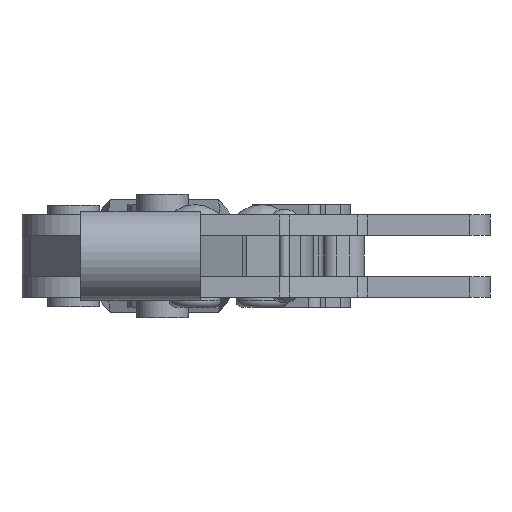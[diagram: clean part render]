
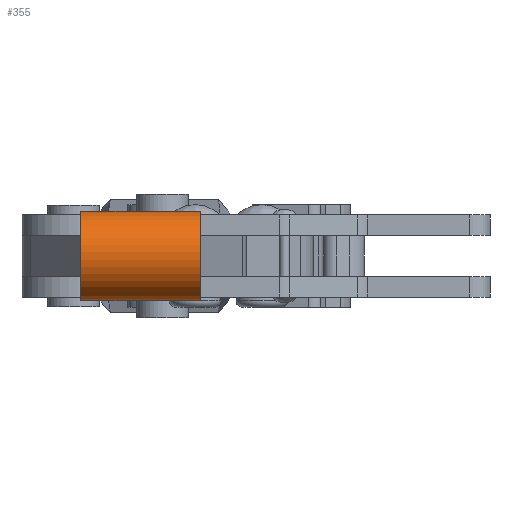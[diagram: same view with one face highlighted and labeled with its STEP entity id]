
A CAD part, left-side view. The second image highlights one B-rep face of the part: STEP entity #355.
In plain terms, the highlighted cylindrical face has radius 4.35 mm (diameter 8.7 mm), a partial arc.
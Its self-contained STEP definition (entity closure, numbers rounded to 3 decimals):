
#355 = ADVANCED_FACE( '', ( #669 ), #670, .T. );
#669 = FACE_OUTER_BOUND( '', #1290, .T. );
#670 = CYLINDRICAL_SURFACE( '', #1291, 4.35 );
#1290 = EDGE_LOOP( '', ( #2214, #2215, #2216, #2217 ) );
#1291 = AXIS2_PLACEMENT_3D( '', #2218, #2219, #2220 );
#2214 = ORIENTED_EDGE( '', *, *, #3450, .T. );
#2215 = ORIENTED_EDGE( '', *, *, #3451, .F. );
#2216 = ORIENTED_EDGE( '', *, *, #3452, .F. );
#2217 = ORIENTED_EDGE( '', *, *, #3453, .T. );
#2218 = CARTESIAN_POINT( '', ( -45.75, 11.113, 0. ) );
#2219 = DIRECTION( '', ( 0., 1., 0. ) );
#2220 = DIRECTION( '', ( 0., 0., -1. ) );
#3450 = EDGE_CURVE( '', #4095, #4096, #4097, .T. );
#3451 = EDGE_CURVE( '', #4098, #4096, #4099, .T. );
#3452 = EDGE_CURVE( '', #4100, #4098, #4101, .T. );
#3453 = EDGE_CURVE( '', #4100, #4095, #4102, .T. );
#4095 = VERTEX_POINT( '', #5075 );
#4096 = VERTEX_POINT( '', #5076 );
#4097 = CIRCLE( '', #5077, 4.35 );
#4098 = VERTEX_POINT( '', #5078 );
#4099 = LINE( '', #5079, #5080 );
#4100 = VERTEX_POINT( '', #5081 );
#4101 = CIRCLE( '', #5082, 4.35 );
#4102 = LINE( '', #5083, #5084 );
#5075 = CARTESIAN_POINT( '', ( -43.487, -0.512, -3.715 ) );
#5076 = CARTESIAN_POINT( '', ( -43.487, -0.512, 3.715 ) );
#5077 = AXIS2_PLACEMENT_3D( '', #6301, #6302, #6303 );
#5078 = CARTESIAN_POINT( '', ( -43.487, 11.113, 3.715 ) );
#5079 = CARTESIAN_POINT( '', ( -43.487, 11.113, 3.715 ) );
#5080 = VECTOR( '', #6304, 1000. );
#5081 = CARTESIAN_POINT( '', ( -43.487, 11.113, -3.715 ) );
#5082 = AXIS2_PLACEMENT_3D( '', #6305, #6306, #6307 );
#5083 = CARTESIAN_POINT( '', ( -43.487, 11.113, -3.715 ) );
#5084 = VECTOR( '', #6308, 1000. );
#6301 = CARTESIAN_POINT( '', ( -45.75, -0.512, 0. ) );
#6302 = DIRECTION( '', ( 0., 1., 0. ) );
#6303 = DIRECTION( '', ( 1., 0., 0. ) );
#6304 = DIRECTION( '', ( 0., -1., 0. ) );
#6305 = CARTESIAN_POINT( '', ( -45.75, 11.113, 0. ) );
#6306 = DIRECTION( '', ( 0., 1., 0. ) );
#6307 = DIRECTION( '', ( 1., 0., 0. ) );
#6308 = DIRECTION( '', ( 0., -1., 0. ) );
